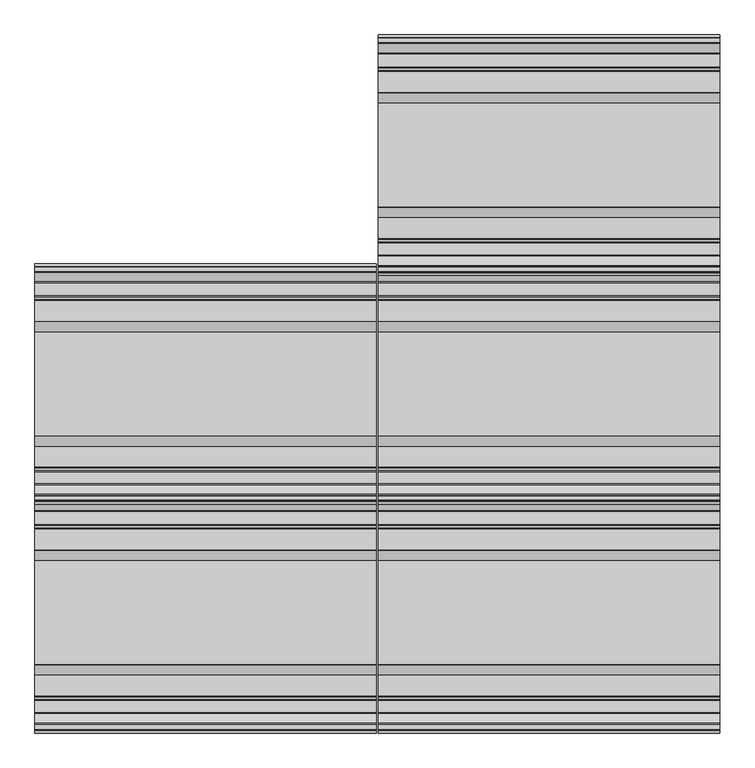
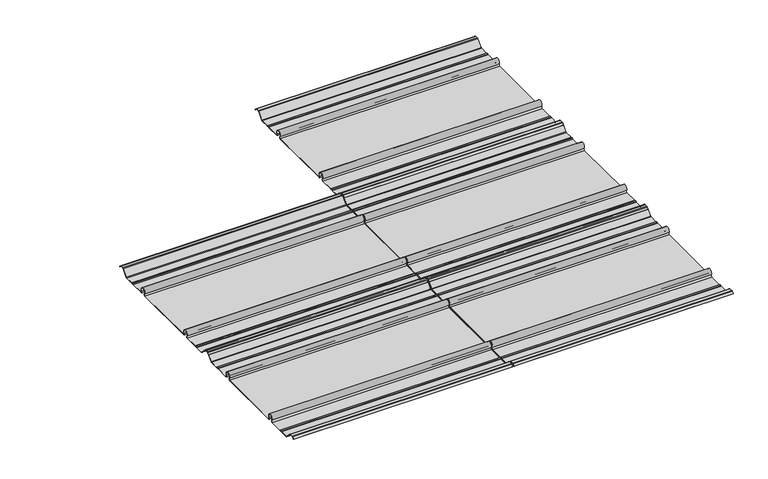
"""IFC4 building model written with IfcOpenShell, lengths in millimetres: proxy geometry, Xlath : Xlath."""

from ifc_helpers import new_model, si_unit, point, frame, frame_2d, origin, place, context, project, spatial, polyline, circle_curve, trimmed, segment, composite_curve, outline, extrude, source, transform, mapped, element, save


def generic_models_d6662897(model_context):
    return source(origin(), model_context, "Body", "SweptSolid", [
        extrude(outline(composite_curve([segment(polyline([(-3661.621536, 17.692427), (-3657.6, 13.8209287), (-3658.1628134, 13.2581153), (-3662.4173305, 17.3539026)]), True, "CONTINUOUS"), segment(trimmed(circle_curve(frame_2d((-3664.2934261, 15.4051)), 2.7051), [point((-3662.4173305, 17.3539026))], [point((-3664.2934261, 18.1102))], True, "CARTESIAN"), True, "CONTINUOUS"), segment(polyline([(-3664.2934261, 18.1102), (-3671.4817457, 18.1102)]), True, "CONTINUOUS"), segment(trimmed(circle_curve(frame_2d((-3671.4817457, 15.4051)), 2.7051), [point((-3671.4817457, 18.1102))], [point((-3673.4059623, 17.3064039))], True, "CARTESIAN"), True, "CONTINUOUS"), segment(polyline([(-3673.4059623, 17.3064039), (-3689.5741011, 0.9434226)]), True, "CONTINUOUS"), segment(trimmed(circle_curve(frame_2d((-3691.8325712, 3.175)), 3.175), [point((-3689.5741011, 0.9434226))], [point((-3691.8325712, 0.0))], False, "CARTESIAN"), True, "CONTINUOUS"), segment(polyline([(-3691.8325712, 0.0), (-3714.9486405, 0.0)]), True, "CONTINUOUS"), segment(trimmed(circle_curve(frame_2d((-3714.9486405, 3.175)), 3.175), [point((-3714.9486405, 0.0))], [point((-3716.9419174, 0.70367))], False, "CARTESIAN"), True, "CONTINUOUS"), segment(trimmed(circle_curve(frame_2d((-3718.9351943, -1.7676601)), 3.175), [point((-3716.9419174, 0.70367))], [point((-3720.9284712, 0.70367))], True, "CARTESIAN"), True, "CONTINUOUS"), segment(trimmed(circle_curve(frame_2d((-3722.9217481, 3.175)), 3.175), [point((-3720.9284712, 0.70367))], [point((-3722.9217481, 0.0))], False, "CARTESIAN"), True, "CONTINUOUS"), segment(polyline([(-3722.9217481, 0.0), (-3760.19972, 0.0)]), True, "CONTINUOUS"), segment(trimmed(circle_curve(frame_2d((-3760.19972, 3.3362305)), 3.3362305), [point((-3760.19972, 0.0))], [point((-3762.8911698, 5.3076593))], False, "CARTESIAN"), True, "CONTINUOUS"), segment(trimmed(circle_curve(frame_2d((-3769.4031627, 10.0775533)), 8.0720469), [point((-3762.8911698, 5.3076593))], [point((-3775.9151555, 5.3076593))], True, "CARTESIAN"), True, "CONTINUOUS"), segment(trimmed(circle_curve(frame_2d((-3778.6066054, 3.3362305)), 3.3362305), [point((-3775.9151555, 5.3076593))], [point((-3778.6066054, 0.0))], False, "CARTESIAN"), True, "CONTINUOUS"), segment(polyline([(-3778.6066054, 0.0), (-3963.6308946, 0.0)]), True, "CONTINUOUS"), segment(trimmed(circle_curve(frame_2d((-3963.6308946, 3.3362305)), 3.3362305), [point((-3963.6308946, 0.0))], [point((-3966.3223445, 5.3076593))], False, "CARTESIAN"), True, "CONTINUOUS"), segment(trimmed(circle_curve(frame_2d((-3972.8343373, 10.0775533)), 8.0720469), [point((-3966.3223445, 5.3076593))], [point((-3979.3463302, 5.3076593))], True, "CARTESIAN"), True, "CONTINUOUS"), segment(trimmed(circle_curve(frame_2d((-3982.03778, 3.3362305)), 3.3362305), [point((-3979.3463302, 5.3076593))], [point((-3982.03778, 0.0))], False, "CARTESIAN"), True, "CONTINUOUS"), segment(polyline([(-3982.03778, 0.0), (-4019.3157519, 0.0)]), True, "CONTINUOUS"), segment(trimmed(circle_curve(frame_2d((-4019.3157519, 3.175)), 3.175), [point((-4019.3157519, 0.0))], [point((-4021.3090288, 0.70367))], False, "CARTESIAN"), True, "CONTINUOUS"), segment(trimmed(circle_curve(frame_2d((-4023.3023057, -1.7676601)), 3.175), [point((-4021.3090288, 0.70367))], [point((-4025.2955826, 0.70367))], True, "CARTESIAN"), True, "CONTINUOUS"), segment(trimmed(circle_curve(frame_2d((-4027.2888595, 3.175)), 3.175), [point((-4025.2955826, 0.70367))], [point((-4027.2888595, 0.0))], False, "CARTESIAN"), True, "CONTINUOUS"), segment(polyline([(-4027.2888595, 0.0), (-4048.6183557, 0.0)]), True, "CONTINUOUS"), segment(trimmed(circle_curve(frame_2d((-4048.6183557, 3.175)), 3.175), [point((-4048.6183557, 0.0))], [point((-4050.8768259, 0.9434226))], False, "CARTESIAN"), True, "CONTINUOUS"), segment(polyline([(-4050.8768259, 0.9434226), (-4067.5092693, 17.7763039)]), True, "CONTINUOUS"), segment(trimmed(circle_curve(frame_2d((-4069.4334859, 15.875)), 2.7051), [point((-4067.5092693, 17.7763039))], [point((-4069.4334859, 18.5801))], True, "CARTESIAN"), True, "CONTINUOUS"), segment(polyline([(-4069.4334859, 18.5801), (-4077.9440739, 18.5801)]), True, "CONTINUOUS"), segment(trimmed(circle_curve(frame_2d((-4077.9440739, 15.875)), 2.7051), [point((-4077.9440739, 18.5801))], [point((-4079.8201695, 17.8238026))], True, "CARTESIAN"), True, "CONTINUOUS"), segment(polyline([(-4079.8201695, 17.8238026), (-4084.0855845, 13.717524), (-4084.6483979, 14.2803374), (-4080.615964, 18.162327)]), True, "CONTINUOUS"), segment(trimmed(circle_curve(frame_2d((-4078.4139739, 15.875)), 3.175), [point((-4080.615964, 18.162327))], [point((-4078.4139739, 19.05))], False, "CARTESIAN"), True, "CONTINUOUS"), segment(polyline([(-4078.4139739, 19.05), (-4069.4334859, 19.05)]), True, "CONTINUOUS"), segment(trimmed(circle_curve(frame_2d((-4069.4334859, 15.875)), 3.175), [point((-4069.4334859, 19.05))], [point((-4067.1750157, 18.1065774))], False, "CARTESIAN"), True, "CONTINUOUS"), segment(polyline([(-4067.1750157, 18.1065774), (-4050.5425723, 1.2736961)]), True, "CONTINUOUS"), segment(trimmed(circle_curve(frame_2d((-4048.6183557, 3.175)), 2.7051), [point((-4050.5425723, 1.2736961))], [point((-4048.6183557, 0.4699))], True, "CARTESIAN"), True, "CONTINUOUS"), segment(polyline([(-4048.6183557, 0.4699), (-4027.4514296, 0.4699)]), True, "CONTINUOUS"), segment(trimmed(circle_curve(frame_2d((-4027.4514296, 3.6449)), 3.175), [point((-4027.4514296, 0.4699))], [point((-4025.5198077, 1.1250862))], True, "CARTESIAN"), True, "CONTINUOUS"), segment(trimmed(circle_curve(frame_2d((-4023.3023057, -1.7676601)), 3.6449), [point((-4025.5198077, 1.1250862))], [point((-4021.0848037, 1.1250862))], False, "CARTESIAN"), True, "CONTINUOUS"), segment(trimmed(circle_curve(frame_2d((-4019.1531818, 3.6449)), 3.175), [point((-4021.0848037, 1.1250862))], [point((-4019.1531818, 0.4699))], True, "CARTESIAN"), True, "CONTINUOUS"), segment(polyline([(-4019.1531818, 0.4699), (-3982.03778, 0.4699)]), True, "CONTINUOUS"), segment(trimmed(circle_curve(frame_2d((-3982.03778, 3.3362305)), 2.8663305), [point((-3982.03778, 0.4699))], [point((-3979.7254144, 5.0299883))], True, "CARTESIAN"), True, "CONTINUOUS"), segment(trimmed(circle_curve(frame_2d((-3972.8343373, 10.0775533)), 8.5419469), [point((-3979.7254144, 5.0299883))], [point((-3965.9432603, 5.0299883))], False, "CARTESIAN"), True, "CONTINUOUS"), segment(trimmed(circle_curve(frame_2d((-3963.6308946, 3.3362305)), 2.8663305), [point((-3965.9432603, 5.0299883))], [point((-3963.6308946, 0.4699))], True, "CARTESIAN"), True, "CONTINUOUS"), segment(polyline([(-3963.6308946, 0.4699), (-3778.6066054, 0.4699)]), True, "CONTINUOUS"), segment(trimmed(circle_curve(frame_2d((-3778.6066054, 3.3362305)), 2.8663305), [point((-3778.6066054, 0.4699))], [point((-3776.2942397, 5.0299883))], True, "CARTESIAN"), True, "CONTINUOUS"), segment(trimmed(circle_curve(frame_2d((-3769.4031627, 10.0775533)), 8.5419469), [point((-3776.2942397, 5.0299883))], [point((-3762.5120856, 5.0299883))], False, "CARTESIAN"), True, "CONTINUOUS"), segment(trimmed(circle_curve(frame_2d((-3760.19972, 3.3362305)), 2.8663305), [point((-3762.5120856, 5.0299883))], [point((-3760.19972, 0.4699))], True, "CARTESIAN"), True, "CONTINUOUS"), segment(polyline([(-3760.19972, 0.4699), (-3723.0843182, 0.4699)]), True, "CONTINUOUS"), segment(trimmed(circle_curve(frame_2d((-3723.0843182, 3.6449)), 3.175), [point((-3723.0843182, 0.4699))], [point((-3721.1526963, 1.1250862))], True, "CARTESIAN"), True, "CONTINUOUS"), segment(trimmed(circle_curve(frame_2d((-3718.9351943, -1.7676601)), 3.6449), [point((-3721.1526963, 1.1250862))], [point((-3716.7176923, 1.1250862))], False, "CARTESIAN"), True, "CONTINUOUS"), segment(trimmed(circle_curve(frame_2d((-3714.7860704, 3.6449)), 3.175), [point((-3716.7176923, 1.1250862))], [point((-3714.7860704, 0.4699))], True, "CARTESIAN"), True, "CONTINUOUS"), segment(polyline([(-3714.7860704, 0.4699), (-3691.8325712, 0.4699)]), True, "CONTINUOUS"), segment(trimmed(circle_curve(frame_2d((-3691.8325712, 3.175)), 2.7051), [point((-3691.8325712, 0.4699))], [point((-3689.9083547, 1.2736961))], True, "CARTESIAN"), True, "CONTINUOUS"), segment(polyline([(-3689.9083547, 1.2736961), (-3673.7402159, 17.6366774)]), True, "CONTINUOUS"), segment(trimmed(circle_curve(frame_2d((-3671.4817457, 15.4051)), 3.175), [point((-3673.7402159, 17.6366774))], [point((-3671.4817457, 18.5801))], False, "CARTESIAN"), True, "CONTINUOUS"), segment(polyline([(-3671.4817457, 18.5801), (-3663.8235261, 18.5801)]), True, "CONTINUOUS"), segment(trimmed(circle_curve(frame_2d((-3663.8235261, 15.4051)), 3.175), [point((-3663.8235261, 18.5801))], [point((-3661.621536, 17.692427))], False, "CARTESIAN"), True, "CONTINUOUS")], self_intersect=False)), frame((609.6, 0.0, 0.0), z_axis=(1.0, 0.0, 0.0), x_axis=(0.0, 1.0, 0.0)), (0.0, 0.0, 1.0), 606.425),
        extrude(outline(composite_curve([segment(polyline([(-3661.621536, 17.692427), (-3657.6, 13.8209287), (-3658.1628134, 13.2581153), (-3662.4173305, 17.3539026)]), True, "CONTINUOUS"), segment(trimmed(circle_curve(frame_2d((-3664.2934261, 15.4051)), 2.7051), [point((-3662.4173305, 17.3539026))], [point((-3664.2934261, 18.1102))], True, "CARTESIAN"), True, "CONTINUOUS"), segment(polyline([(-3664.2934261, 18.1102), (-3671.4817457, 18.1102)]), True, "CONTINUOUS"), segment(trimmed(circle_curve(frame_2d((-3671.4817457, 15.4051)), 2.7051), [point((-3671.4817457, 18.1102))], [point((-3673.4059623, 17.3064039))], True, "CARTESIAN"), True, "CONTINUOUS"), segment(polyline([(-3673.4059623, 17.3064039), (-3689.5741011, 0.9434226)]), True, "CONTINUOUS"), segment(trimmed(circle_curve(frame_2d((-3691.8325712, 3.175)), 3.175), [point((-3689.5741011, 0.9434226))], [point((-3691.8325712, 0.0))], False, "CARTESIAN"), True, "CONTINUOUS"), segment(polyline([(-3691.8325712, 0.0), (-3714.9486405, 0.0)]), True, "CONTINUOUS"), segment(trimmed(circle_curve(frame_2d((-3714.9486405, 3.175)), 3.175), [point((-3714.9486405, 0.0))], [point((-3716.9419174, 0.70367))], False, "CARTESIAN"), True, "CONTINUOUS"), segment(trimmed(circle_curve(frame_2d((-3718.9351943, -1.7676601)), 3.175), [point((-3716.9419174, 0.70367))], [point((-3720.9284712, 0.70367))], True, "CARTESIAN"), True, "CONTINUOUS"), segment(trimmed(circle_curve(frame_2d((-3722.9217481, 3.175)), 3.175), [point((-3720.9284712, 0.70367))], [point((-3722.9217481, 0.0))], False, "CARTESIAN"), True, "CONTINUOUS"), segment(polyline([(-3722.9217481, 0.0), (-3760.19972, 0.0)]), True, "CONTINUOUS"), segment(trimmed(circle_curve(frame_2d((-3760.19972, 3.3362305)), 3.3362305), [point((-3760.19972, 0.0))], [point((-3762.8911698, 5.3076593))], False, "CARTESIAN"), True, "CONTINUOUS"), segment(trimmed(circle_curve(frame_2d((-3769.4031627, 10.0775533)), 8.0720469), [point((-3762.8911698, 5.3076593))], [point((-3775.9151555, 5.3076593))], True, "CARTESIAN"), True, "CONTINUOUS"), segment(trimmed(circle_curve(frame_2d((-3778.6066054, 3.3362305)), 3.3362305), [point((-3775.9151555, 5.3076593))], [point((-3778.6066054, 0.0))], False, "CARTESIAN"), True, "CONTINUOUS"), segment(polyline([(-3778.6066054, 0.0), (-3963.6308946, 0.0)]), True, "CONTINUOUS"), segment(trimmed(circle_curve(frame_2d((-3963.6308946, 3.3362305)), 3.3362305), [point((-3963.6308946, 0.0))], [point((-3966.3223445, 5.3076593))], False, "CARTESIAN"), True, "CONTINUOUS"), segment(trimmed(circle_curve(frame_2d((-3972.8343373, 10.0775533)), 8.0720469), [point((-3966.3223445, 5.3076593))], [point((-3979.3463302, 5.3076593))], True, "CARTESIAN"), True, "CONTINUOUS"), segment(trimmed(circle_curve(frame_2d((-3982.03778, 3.3362305)), 3.3362305), [point((-3979.3463302, 5.3076593))], [point((-3982.03778, 0.0))], False, "CARTESIAN"), True, "CONTINUOUS"), segment(polyline([(-3982.03778, 0.0), (-4019.3157519, 0.0)]), True, "CONTINUOUS"), segment(trimmed(circle_curve(frame_2d((-4019.3157519, 3.175)), 3.175), [point((-4019.3157519, 0.0))], [point((-4021.3090288, 0.70367))], False, "CARTESIAN"), True, "CONTINUOUS"), segment(trimmed(circle_curve(frame_2d((-4023.3023057, -1.7676601)), 3.175), [point((-4021.3090288, 0.70367))], [point((-4025.2955826, 0.70367))], True, "CARTESIAN"), True, "CONTINUOUS"), segment(trimmed(circle_curve(frame_2d((-4027.2888595, 3.175)), 3.175), [point((-4025.2955826, 0.70367))], [point((-4027.2888595, 0.0))], False, "CARTESIAN"), True, "CONTINUOUS"), segment(polyline([(-4027.2888595, 0.0), (-4048.6183557, 0.0)]), True, "CONTINUOUS"), segment(trimmed(circle_curve(frame_2d((-4048.6183557, 3.175)), 3.175), [point((-4048.6183557, 0.0))], [point((-4050.8768259, 0.9434226))], False, "CARTESIAN"), True, "CONTINUOUS"), segment(polyline([(-4050.8768259, 0.9434226), (-4067.5092693, 17.7763039)]), True, "CONTINUOUS"), segment(trimmed(circle_curve(frame_2d((-4069.4334859, 15.875)), 2.7051), [point((-4067.5092693, 17.7763039))], [point((-4069.4334859, 18.5801))], True, "CARTESIAN"), True, "CONTINUOUS"), segment(polyline([(-4069.4334859, 18.5801), (-4077.9440739, 18.5801)]), True, "CONTINUOUS"), segment(trimmed(circle_curve(frame_2d((-4077.9440739, 15.875)), 2.7051), [point((-4077.9440739, 18.5801))], [point((-4079.8201695, 17.8238026))], True, "CARTESIAN"), True, "CONTINUOUS"), segment(polyline([(-4079.8201695, 17.8238026), (-4084.0855845, 13.717524), (-4084.6483979, 14.2803374), (-4080.615964, 18.162327)]), True, "CONTINUOUS"), segment(trimmed(circle_curve(frame_2d((-4078.4139739, 15.875)), 3.175), [point((-4080.615964, 18.162327))], [point((-4078.4139739, 19.05))], False, "CARTESIAN"), True, "CONTINUOUS"), segment(polyline([(-4078.4139739, 19.05), (-4069.4334859, 19.05)]), True, "CONTINUOUS"), segment(trimmed(circle_curve(frame_2d((-4069.4334859, 15.875)), 3.175), [point((-4069.4334859, 19.05))], [point((-4067.1750157, 18.1065774))], False, "CARTESIAN"), True, "CONTINUOUS"), segment(polyline([(-4067.1750157, 18.1065774), (-4050.5425723, 1.2736961)]), True, "CONTINUOUS"), segment(trimmed(circle_curve(frame_2d((-4048.6183557, 3.175)), 2.7051), [point((-4050.5425723, 1.2736961))], [point((-4048.6183557, 0.4699))], True, "CARTESIAN"), True, "CONTINUOUS"), segment(polyline([(-4048.6183557, 0.4699), (-4027.4514296, 0.4699)]), True, "CONTINUOUS"), segment(trimmed(circle_curve(frame_2d((-4027.4514296, 3.6449)), 3.175), [point((-4027.4514296, 0.4699))], [point((-4025.5198077, 1.1250862))], True, "CARTESIAN"), True, "CONTINUOUS"), segment(trimmed(circle_curve(frame_2d((-4023.3023057, -1.7676601)), 3.6449), [point((-4025.5198077, 1.1250862))], [point((-4021.0848037, 1.1250862))], False, "CARTESIAN"), True, "CONTINUOUS"), segment(trimmed(circle_curve(frame_2d((-4019.1531818, 3.6449)), 3.175), [point((-4021.0848037, 1.1250862))], [point((-4019.1531818, 0.4699))], True, "CARTESIAN"), True, "CONTINUOUS"), segment(polyline([(-4019.1531818, 0.4699), (-3982.03778, 0.4699)]), True, "CONTINUOUS"), segment(trimmed(circle_curve(frame_2d((-3982.03778, 3.3362305)), 2.8663305), [point((-3982.03778, 0.4699))], [point((-3979.7254144, 5.0299883))], True, "CARTESIAN"), True, "CONTINUOUS"), segment(trimmed(circle_curve(frame_2d((-3972.8343373, 10.0775533)), 8.5419469), [point((-3979.7254144, 5.0299883))], [point((-3965.9432603, 5.0299883))], False, "CARTESIAN"), True, "CONTINUOUS"), segment(trimmed(circle_curve(frame_2d((-3963.6308946, 3.3362305)), 2.8663305), [point((-3965.9432603, 5.0299883))], [point((-3963.6308946, 0.4699))], True, "CARTESIAN"), True, "CONTINUOUS"), segment(polyline([(-3963.6308946, 0.4699), (-3778.6066054, 0.4699)]), True, "CONTINUOUS"), segment(trimmed(circle_curve(frame_2d((-3778.6066054, 3.3362305)), 2.8663305), [point((-3778.6066054, 0.4699))], [point((-3776.2942397, 5.0299883))], True, "CARTESIAN"), True, "CONTINUOUS"), segment(trimmed(circle_curve(frame_2d((-3769.4031627, 10.0775533)), 8.5419469), [point((-3776.2942397, 5.0299883))], [point((-3762.5120856, 5.0299883))], False, "CARTESIAN"), True, "CONTINUOUS"), segment(trimmed(circle_curve(frame_2d((-3760.19972, 3.3362305)), 2.8663305), [point((-3762.5120856, 5.0299883))], [point((-3760.19972, 0.4699))], True, "CARTESIAN"), True, "CONTINUOUS"), segment(polyline([(-3760.19972, 0.4699), (-3723.0843182, 0.4699)]), True, "CONTINUOUS"), segment(trimmed(circle_curve(frame_2d((-3723.0843182, 3.6449)), 3.175), [point((-3723.0843182, 0.4699))], [point((-3721.1526963, 1.1250862))], True, "CARTESIAN"), True, "CONTINUOUS"), segment(trimmed(circle_curve(frame_2d((-3718.9351943, -1.7676601)), 3.6449), [point((-3721.1526963, 1.1250862))], [point((-3716.7176923, 1.1250862))], False, "CARTESIAN"), True, "CONTINUOUS"), segment(trimmed(circle_curve(frame_2d((-3714.7860704, 3.6449)), 3.175), [point((-3716.7176923, 1.1250862))], [point((-3714.7860704, 0.4699))], True, "CARTESIAN"), True, "CONTINUOUS"), segment(polyline([(-3714.7860704, 0.4699), (-3691.8325712, 0.4699)]), True, "CONTINUOUS"), segment(trimmed(circle_curve(frame_2d((-3691.8325712, 3.175)), 2.7051), [point((-3691.8325712, 0.4699))], [point((-3689.9083547, 1.2736961))], True, "CARTESIAN"), True, "CONTINUOUS"), segment(polyline([(-3689.9083547, 1.2736961), (-3673.7402159, 17.6366774)]), True, "CONTINUOUS"), segment(trimmed(circle_curve(frame_2d((-3671.4817457, 15.4051)), 3.175), [point((-3673.7402159, 17.6366774))], [point((-3671.4817457, 18.5801))], False, "CARTESIAN"), True, "CONTINUOUS"), segment(polyline([(-3671.4817457, 18.5801), (-3663.8235261, 18.5801)]), True, "CONTINUOUS"), segment(trimmed(circle_curve(frame_2d((-3663.8235261, 15.4051)), 3.175), [point((-3663.8235261, 18.5801))], [point((-3661.621536, 17.692427))], False, "CARTESIAN"), True, "CONTINUOUS")], self_intersect=False)), frame((0.0, 0.0, 0.0), z_axis=(1.0, 0.0, 0.0), x_axis=(0.0, 1.0, 0.0)), (0.0, 0.0, 1.0), 606.425),
        extrude(outline(composite_curve([segment(polyline([(-3255.221536, 17.692427), (-3251.2, 13.8209287), (-3251.7628134, 13.2581153), (-3256.0173305, 17.3539026)]), True, "CONTINUOUS"), segment(trimmed(circle_curve(frame_2d((-3257.8934261, 15.4051)), 2.7051), [point((-3256.0173305, 17.3539026))], [point((-3257.8934261, 18.1102))], True, "CARTESIAN"), True, "CONTINUOUS"), segment(polyline([(-3257.8934261, 18.1102), (-3265.0817457, 18.1102)]), True, "CONTINUOUS"), segment(trimmed(circle_curve(frame_2d((-3265.0817457, 15.4051)), 2.7051), [point((-3265.0817457, 18.1102))], [point((-3267.0059623, 17.3064039))], True, "CARTESIAN"), True, "CONTINUOUS"), segment(polyline([(-3267.0059623, 17.3064039), (-3283.1741011, 0.9434226)]), True, "CONTINUOUS"), segment(trimmed(circle_curve(frame_2d((-3285.4325712, 3.175)), 3.175), [point((-3283.1741011, 0.9434226))], [point((-3285.4325712, 0.0))], False, "CARTESIAN"), True, "CONTINUOUS"), segment(polyline([(-3285.4325712, 0.0), (-3308.5486405, 0.0)]), True, "CONTINUOUS"), segment(trimmed(circle_curve(frame_2d((-3308.5486405, 3.175)), 3.175), [point((-3308.5486405, 0.0))], [point((-3310.5419174, 0.70367))], False, "CARTESIAN"), True, "CONTINUOUS"), segment(trimmed(circle_curve(frame_2d((-3312.5351943, -1.7676601)), 3.175), [point((-3310.5419174, 0.70367))], [point((-3314.5284712, 0.70367))], True, "CARTESIAN"), True, "CONTINUOUS"), segment(trimmed(circle_curve(frame_2d((-3316.5217481, 3.175)), 3.175), [point((-3314.5284712, 0.70367))], [point((-3316.5217481, 0.0))], False, "CARTESIAN"), True, "CONTINUOUS"), segment(polyline([(-3316.5217481, 0.0), (-3353.79972, 0.0)]), True, "CONTINUOUS"), segment(trimmed(circle_curve(frame_2d((-3353.79972, 3.3362305)), 3.3362305), [point((-3353.79972, 0.0))], [point((-3356.4911698, 5.3076593))], False, "CARTESIAN"), True, "CONTINUOUS"), segment(trimmed(circle_curve(frame_2d((-3363.0031627, 10.0775533)), 8.0720469), [point((-3356.4911698, 5.3076593))], [point((-3369.5151555, 5.3076593))], True, "CARTESIAN"), True, "CONTINUOUS"), segment(trimmed(circle_curve(frame_2d((-3372.2066054, 3.3362305)), 3.3362305), [point((-3369.5151555, 5.3076593))], [point((-3372.2066054, 0.0))], False, "CARTESIAN"), True, "CONTINUOUS"), segment(polyline([(-3372.2066054, 0.0), (-3557.2308946, 0.0)]), True, "CONTINUOUS"), segment(trimmed(circle_curve(frame_2d((-3557.2308946, 3.3362305)), 3.3362305), [point((-3557.2308946, 0.0))], [point((-3559.9223445, 5.3076593))], False, "CARTESIAN"), True, "CONTINUOUS"), segment(trimmed(circle_curve(frame_2d((-3566.4343373, 10.0775533)), 8.0720469), [point((-3559.9223445, 5.3076593))], [point((-3572.9463302, 5.3076593))], True, "CARTESIAN"), True, "CONTINUOUS"), segment(trimmed(circle_curve(frame_2d((-3575.63778, 3.3362305)), 3.3362305), [point((-3572.9463302, 5.3076593))], [point((-3575.63778, 0.0))], False, "CARTESIAN"), True, "CONTINUOUS"), segment(polyline([(-3575.63778, 0.0), (-3612.9157519, 0.0)]), True, "CONTINUOUS"), segment(trimmed(circle_curve(frame_2d((-3612.9157519, 3.175)), 3.175), [point((-3612.9157519, 0.0))], [point((-3614.9090288, 0.70367))], False, "CARTESIAN"), True, "CONTINUOUS"), segment(trimmed(circle_curve(frame_2d((-3616.9023057, -1.7676601)), 3.175), [point((-3614.9090288, 0.70367))], [point((-3618.8955826, 0.70367))], True, "CARTESIAN"), True, "CONTINUOUS"), segment(trimmed(circle_curve(frame_2d((-3620.8888595, 3.175)), 3.175), [point((-3618.8955826, 0.70367))], [point((-3620.8888595, 0.0))], False, "CARTESIAN"), True, "CONTINUOUS"), segment(polyline([(-3620.8888595, 0.0), (-3642.2183557, 0.0)]), True, "CONTINUOUS"), segment(trimmed(circle_curve(frame_2d((-3642.2183557, 3.175)), 3.175), [point((-3642.2183557, 0.0))], [point((-3644.4768259, 0.9434226))], False, "CARTESIAN"), True, "CONTINUOUS"), segment(polyline([(-3644.4768259, 0.9434226), (-3661.1092693, 17.7763039)]), True, "CONTINUOUS"), segment(trimmed(circle_curve(frame_2d((-3663.0334859, 15.875)), 2.7051), [point((-3661.1092693, 17.7763039))], [point((-3663.0334859, 18.5801))], True, "CARTESIAN"), True, "CONTINUOUS"), segment(polyline([(-3663.0334859, 18.5801), (-3671.5440739, 18.5801)]), True, "CONTINUOUS"), segment(trimmed(circle_curve(frame_2d((-3671.5440739, 15.875)), 2.7051), [point((-3671.5440739, 18.5801))], [point((-3673.4201695, 17.8238026))], True, "CARTESIAN"), True, "CONTINUOUS"), segment(polyline([(-3673.4201695, 17.8238026), (-3677.6855845, 13.717524), (-3678.2483979, 14.2803374), (-3674.215964, 18.162327)]), True, "CONTINUOUS"), segment(trimmed(circle_curve(frame_2d((-3672.0139739, 15.875)), 3.175), [point((-3674.215964, 18.162327))], [point((-3672.0139739, 19.05))], False, "CARTESIAN"), True, "CONTINUOUS"), segment(polyline([(-3672.0139739, 19.05), (-3663.0334859, 19.05)]), True, "CONTINUOUS"), segment(trimmed(circle_curve(frame_2d((-3663.0334859, 15.875)), 3.175), [point((-3663.0334859, 19.05))], [point((-3660.7750157, 18.1065774))], False, "CARTESIAN"), True, "CONTINUOUS"), segment(polyline([(-3660.7750157, 18.1065774), (-3644.1425723, 1.2736961)]), True, "CONTINUOUS"), segment(trimmed(circle_curve(frame_2d((-3642.2183557, 3.175)), 2.7051), [point((-3644.1425723, 1.2736961))], [point((-3642.2183557, 0.4699))], True, "CARTESIAN"), True, "CONTINUOUS"), segment(polyline([(-3642.2183557, 0.4699), (-3621.0514296, 0.4699)]), True, "CONTINUOUS"), segment(trimmed(circle_curve(frame_2d((-3621.0514296, 3.6449)), 3.175), [point((-3621.0514296, 0.4699))], [point((-3619.1198077, 1.1250862))], True, "CARTESIAN"), True, "CONTINUOUS"), segment(trimmed(circle_curve(frame_2d((-3616.9023057, -1.7676601)), 3.6449), [point((-3619.1198077, 1.1250862))], [point((-3614.6848037, 1.1250862))], False, "CARTESIAN"), True, "CONTINUOUS"), segment(trimmed(circle_curve(frame_2d((-3612.7531818, 3.6449)), 3.175), [point((-3614.6848037, 1.1250862))], [point((-3612.7531818, 0.4699))], True, "CARTESIAN"), True, "CONTINUOUS"), segment(polyline([(-3612.7531818, 0.4699), (-3575.63778, 0.4699)]), True, "CONTINUOUS"), segment(trimmed(circle_curve(frame_2d((-3575.63778, 3.3362305)), 2.8663305), [point((-3575.63778, 0.4699))], [point((-3573.3254144, 5.0299883))], True, "CARTESIAN"), True, "CONTINUOUS"), segment(trimmed(circle_curve(frame_2d((-3566.4343373, 10.0775533)), 8.5419469), [point((-3573.3254144, 5.0299883))], [point((-3559.5432603, 5.0299883))], False, "CARTESIAN"), True, "CONTINUOUS"), segment(trimmed(circle_curve(frame_2d((-3557.2308946, 3.3362305)), 2.8663305), [point((-3559.5432603, 5.0299883))], [point((-3557.2308946, 0.4699))], True, "CARTESIAN"), True, "CONTINUOUS"), segment(polyline([(-3557.2308946, 0.4699), (-3372.2066054, 0.4699)]), True, "CONTINUOUS"), segment(trimmed(circle_curve(frame_2d((-3372.2066054, 3.3362305)), 2.8663305), [point((-3372.2066054, 0.4699))], [point((-3369.8942397, 5.0299883))], True, "CARTESIAN"), True, "CONTINUOUS"), segment(trimmed(circle_curve(frame_2d((-3363.0031627, 10.0775533)), 8.5419469), [point((-3369.8942397, 5.0299883))], [point((-3356.1120856, 5.0299883))], False, "CARTESIAN"), True, "CONTINUOUS"), segment(trimmed(circle_curve(frame_2d((-3353.79972, 3.3362305)), 2.8663305), [point((-3356.1120856, 5.0299883))], [point((-3353.79972, 0.4699))], True, "CARTESIAN"), True, "CONTINUOUS"), segment(polyline([(-3353.79972, 0.4699), (-3316.6843182, 0.4699)]), True, "CONTINUOUS"), segment(trimmed(circle_curve(frame_2d((-3316.6843182, 3.6449)), 3.175), [point((-3316.6843182, 0.4699))], [point((-3314.7526963, 1.1250862))], True, "CARTESIAN"), True, "CONTINUOUS"), segment(trimmed(circle_curve(frame_2d((-3312.5351943, -1.7676601)), 3.6449), [point((-3314.7526963, 1.1250862))], [point((-3310.3176923, 1.1250862))], False, "CARTESIAN"), True, "CONTINUOUS"), segment(trimmed(circle_curve(frame_2d((-3308.3860704, 3.6449)), 3.175), [point((-3310.3176923, 1.1250862))], [point((-3308.3860704, 0.4699))], True, "CARTESIAN"), True, "CONTINUOUS"), segment(polyline([(-3308.3860704, 0.4699), (-3285.4325712, 0.4699)]), True, "CONTINUOUS"), segment(trimmed(circle_curve(frame_2d((-3285.4325712, 3.175)), 2.7051), [point((-3285.4325712, 0.4699))], [point((-3283.5083547, 1.2736961))], True, "CARTESIAN"), True, "CONTINUOUS"), segment(polyline([(-3283.5083547, 1.2736961), (-3267.3402159, 17.6366774)]), True, "CONTINUOUS"), segment(trimmed(circle_curve(frame_2d((-3265.0817457, 15.4051)), 3.175), [point((-3267.3402159, 17.6366774))], [point((-3265.0817457, 18.5801))], False, "CARTESIAN"), True, "CONTINUOUS"), segment(polyline([(-3265.0817457, 18.5801), (-3257.4235261, 18.5801)]), True, "CONTINUOUS"), segment(trimmed(circle_curve(frame_2d((-3257.4235261, 15.4051)), 3.175), [point((-3257.4235261, 18.5801))], [point((-3255.221536, 17.692427))], False, "CARTESIAN"), True, "CONTINUOUS")], self_intersect=False)), frame((609.6, 0.0, 0.0), z_axis=(1.0, 0.0, 0.0), x_axis=(0.0, 1.0, 0.0)), (0.0, 0.0, 1.0), 606.425),
        extrude(outline(composite_curve([segment(polyline([(-3255.221536, 17.692427), (-3251.2, 13.8209287), (-3251.7628134, 13.2581153), (-3256.0173305, 17.3539026)]), True, "CONTINUOUS"), segment(trimmed(circle_curve(frame_2d((-3257.8934261, 15.4051)), 2.7051), [point((-3256.0173305, 17.3539026))], [point((-3257.8934261, 18.1102))], True, "CARTESIAN"), True, "CONTINUOUS"), segment(polyline([(-3257.8934261, 18.1102), (-3265.0817457, 18.1102)]), True, "CONTINUOUS"), segment(trimmed(circle_curve(frame_2d((-3265.0817457, 15.4051)), 2.7051), [point((-3265.0817457, 18.1102))], [point((-3267.0059623, 17.3064039))], True, "CARTESIAN"), True, "CONTINUOUS"), segment(polyline([(-3267.0059623, 17.3064039), (-3283.1741011, 0.9434226)]), True, "CONTINUOUS"), segment(trimmed(circle_curve(frame_2d((-3285.4325712, 3.175)), 3.175), [point((-3283.1741011, 0.9434226))], [point((-3285.4325712, 0.0))], False, "CARTESIAN"), True, "CONTINUOUS"), segment(polyline([(-3285.4325712, 0.0), (-3308.5486405, 0.0)]), True, "CONTINUOUS"), segment(trimmed(circle_curve(frame_2d((-3308.5486405, 3.175)), 3.175), [point((-3308.5486405, 0.0))], [point((-3310.5419174, 0.70367))], False, "CARTESIAN"), True, "CONTINUOUS"), segment(trimmed(circle_curve(frame_2d((-3312.5351943, -1.7676601)), 3.175), [point((-3310.5419174, 0.70367))], [point((-3314.5284712, 0.70367))], True, "CARTESIAN"), True, "CONTINUOUS"), segment(trimmed(circle_curve(frame_2d((-3316.5217481, 3.175)), 3.175), [point((-3314.5284712, 0.70367))], [point((-3316.5217481, 0.0))], False, "CARTESIAN"), True, "CONTINUOUS"), segment(polyline([(-3316.5217481, 0.0), (-3353.79972, 0.0)]), True, "CONTINUOUS"), segment(trimmed(circle_curve(frame_2d((-3353.79972, 3.3362305)), 3.3362305), [point((-3353.79972, 0.0))], [point((-3356.4911698, 5.3076593))], False, "CARTESIAN"), True, "CONTINUOUS"), segment(trimmed(circle_curve(frame_2d((-3363.0031627, 10.0775533)), 8.0720469), [point((-3356.4911698, 5.3076593))], [point((-3369.5151555, 5.3076593))], True, "CARTESIAN"), True, "CONTINUOUS"), segment(trimmed(circle_curve(frame_2d((-3372.2066054, 3.3362305)), 3.3362305), [point((-3369.5151555, 5.3076593))], [point((-3372.2066054, 0.0))], False, "CARTESIAN"), True, "CONTINUOUS"), segment(polyline([(-3372.2066054, 0.0), (-3557.2308946, 0.0)]), True, "CONTINUOUS"), segment(trimmed(circle_curve(frame_2d((-3557.2308946, 3.3362305)), 3.3362305), [point((-3557.2308946, 0.0))], [point((-3559.9223445, 5.3076593))], False, "CARTESIAN"), True, "CONTINUOUS"), segment(trimmed(circle_curve(frame_2d((-3566.4343373, 10.0775533)), 8.0720469), [point((-3559.9223445, 5.3076593))], [point((-3572.9463302, 5.3076593))], True, "CARTESIAN"), True, "CONTINUOUS"), segment(trimmed(circle_curve(frame_2d((-3575.63778, 3.3362305)), 3.3362305), [point((-3572.9463302, 5.3076593))], [point((-3575.63778, 0.0))], False, "CARTESIAN"), True, "CONTINUOUS"), segment(polyline([(-3575.63778, 0.0), (-3612.9157519, 0.0)]), True, "CONTINUOUS"), segment(trimmed(circle_curve(frame_2d((-3612.9157519, 3.175)), 3.175), [point((-3612.9157519, 0.0))], [point((-3614.9090288, 0.70367))], False, "CARTESIAN"), True, "CONTINUOUS"), segment(trimmed(circle_curve(frame_2d((-3616.9023057, -1.7676601)), 3.175), [point((-3614.9090288, 0.70367))], [point((-3618.8955826, 0.70367))], True, "CARTESIAN"), True, "CONTINUOUS"), segment(trimmed(circle_curve(frame_2d((-3620.8888595, 3.175)), 3.175), [point((-3618.8955826, 0.70367))], [point((-3620.8888595, 0.0))], False, "CARTESIAN"), True, "CONTINUOUS"), segment(polyline([(-3620.8888595, 0.0), (-3642.2183557, 0.0)]), True, "CONTINUOUS"), segment(trimmed(circle_curve(frame_2d((-3642.2183557, 3.175)), 3.175), [point((-3642.2183557, 0.0))], [point((-3644.4768259, 0.9434226))], False, "CARTESIAN"), True, "CONTINUOUS"), segment(polyline([(-3644.4768259, 0.9434226), (-3661.1092693, 17.7763039)]), True, "CONTINUOUS"), segment(trimmed(circle_curve(frame_2d((-3663.0334859, 15.875)), 2.7051), [point((-3661.1092693, 17.7763039))], [point((-3663.0334859, 18.5801))], True, "CARTESIAN"), True, "CONTINUOUS"), segment(polyline([(-3663.0334859, 18.5801), (-3671.5440739, 18.5801)]), True, "CONTINUOUS"), segment(trimmed(circle_curve(frame_2d((-3671.5440739, 15.875)), 2.7051), [point((-3671.5440739, 18.5801))], [point((-3673.4201695, 17.8238026))], True, "CARTESIAN"), True, "CONTINUOUS"), segment(polyline([(-3673.4201695, 17.8238026), (-3677.6855845, 13.717524), (-3678.2483979, 14.2803374), (-3674.215964, 18.162327)]), True, "CONTINUOUS"), segment(trimmed(circle_curve(frame_2d((-3672.0139739, 15.875)), 3.175), [point((-3674.215964, 18.162327))], [point((-3672.0139739, 19.05))], False, "CARTESIAN"), True, "CONTINUOUS"), segment(polyline([(-3672.0139739, 19.05), (-3663.0334859, 19.05)]), True, "CONTINUOUS"), segment(trimmed(circle_curve(frame_2d((-3663.0334859, 15.875)), 3.175), [point((-3663.0334859, 19.05))], [point((-3660.7750157, 18.1065774))], False, "CARTESIAN"), True, "CONTINUOUS"), segment(polyline([(-3660.7750157, 18.1065774), (-3644.1425723, 1.2736961)]), True, "CONTINUOUS"), segment(trimmed(circle_curve(frame_2d((-3642.2183557, 3.175)), 2.7051), [point((-3644.1425723, 1.2736961))], [point((-3642.2183557, 0.4699))], True, "CARTESIAN"), True, "CONTINUOUS"), segment(polyline([(-3642.2183557, 0.4699), (-3621.0514296, 0.4699)]), True, "CONTINUOUS"), segment(trimmed(circle_curve(frame_2d((-3621.0514296, 3.6449)), 3.175), [point((-3621.0514296, 0.4699))], [point((-3619.1198077, 1.1250862))], True, "CARTESIAN"), True, "CONTINUOUS"), segment(trimmed(circle_curve(frame_2d((-3616.9023057, -1.7676601)), 3.6449), [point((-3619.1198077, 1.1250862))], [point((-3614.6848037, 1.1250862))], False, "CARTESIAN"), True, "CONTINUOUS"), segment(trimmed(circle_curve(frame_2d((-3612.7531818, 3.6449)), 3.175), [point((-3614.6848037, 1.1250862))], [point((-3612.7531818, 0.4699))], True, "CARTESIAN"), True, "CONTINUOUS"), segment(polyline([(-3612.7531818, 0.4699), (-3575.63778, 0.4699)]), True, "CONTINUOUS"), segment(trimmed(circle_curve(frame_2d((-3575.63778, 3.3362305)), 2.8663305), [point((-3575.63778, 0.4699))], [point((-3573.3254144, 5.0299883))], True, "CARTESIAN"), True, "CONTINUOUS"), segment(trimmed(circle_curve(frame_2d((-3566.4343373, 10.0775533)), 8.5419469), [point((-3573.3254144, 5.0299883))], [point((-3559.5432603, 5.0299883))], False, "CARTESIAN"), True, "CONTINUOUS"), segment(trimmed(circle_curve(frame_2d((-3557.2308946, 3.3362305)), 2.8663305), [point((-3559.5432603, 5.0299883))], [point((-3557.2308946, 0.4699))], True, "CARTESIAN"), True, "CONTINUOUS"), segment(polyline([(-3557.2308946, 0.4699), (-3372.2066054, 0.4699)]), True, "CONTINUOUS"), segment(trimmed(circle_curve(frame_2d((-3372.2066054, 3.3362305)), 2.8663305), [point((-3372.2066054, 0.4699))], [point((-3369.8942397, 5.0299883))], True, "CARTESIAN"), True, "CONTINUOUS"), segment(trimmed(circle_curve(frame_2d((-3363.0031627, 10.0775533)), 8.5419469), [point((-3369.8942397, 5.0299883))], [point((-3356.1120856, 5.0299883))], False, "CARTESIAN"), True, "CONTINUOUS"), segment(trimmed(circle_curve(frame_2d((-3353.79972, 3.3362305)), 2.8663305), [point((-3356.1120856, 5.0299883))], [point((-3353.79972, 0.4699))], True, "CARTESIAN"), True, "CONTINUOUS"), segment(polyline([(-3353.79972, 0.4699), (-3316.6843182, 0.4699)]), True, "CONTINUOUS"), segment(trimmed(circle_curve(frame_2d((-3316.6843182, 3.6449)), 3.175), [point((-3316.6843182, 0.4699))], [point((-3314.7526963, 1.1250862))], True, "CARTESIAN"), True, "CONTINUOUS"), segment(trimmed(circle_curve(frame_2d((-3312.5351943, -1.7676601)), 3.6449), [point((-3314.7526963, 1.1250862))], [point((-3310.3176923, 1.1250862))], False, "CARTESIAN"), True, "CONTINUOUS"), segment(trimmed(circle_curve(frame_2d((-3308.3860704, 3.6449)), 3.175), [point((-3310.3176923, 1.1250862))], [point((-3308.3860704, 0.4699))], True, "CARTESIAN"), True, "CONTINUOUS"), segment(polyline([(-3308.3860704, 0.4699), (-3285.4325712, 0.4699)]), True, "CONTINUOUS"), segment(trimmed(circle_curve(frame_2d((-3285.4325712, 3.175)), 2.7051), [point((-3285.4325712, 0.4699))], [point((-3283.5083547, 1.2736961))], True, "CARTESIAN"), True, "CONTINUOUS"), segment(polyline([(-3283.5083547, 1.2736961), (-3267.3402159, 17.6366774)]), True, "CONTINUOUS"), segment(trimmed(circle_curve(frame_2d((-3265.0817457, 15.4051)), 3.175), [point((-3267.3402159, 17.6366774))], [point((-3265.0817457, 18.5801))], False, "CARTESIAN"), True, "CONTINUOUS"), segment(polyline([(-3265.0817457, 18.5801), (-3257.4235261, 18.5801)]), True, "CONTINUOUS"), segment(trimmed(circle_curve(frame_2d((-3257.4235261, 15.4051)), 3.175), [point((-3257.4235261, 18.5801))], [point((-3255.221536, 17.692427))], False, "CARTESIAN"), True, "CONTINUOUS")], self_intersect=False)), frame((0.0, 0.0, 0.0), z_axis=(1.0, 0.0, 0.0), x_axis=(0.0, 1.0, 0.0)), (0.0, 0.0, 1.0), 606.425),
        extrude(outline(composite_curve([segment(polyline([(-2848.821536, 17.692427), (-2844.8, 13.8209287), (-2845.3628134, 13.2581153), (-2849.6173305, 17.3539026)]), True, "CONTINUOUS"), segment(trimmed(circle_curve(frame_2d((-2851.4934261, 15.4051)), 2.7051), [point((-2849.6173305, 17.3539026))], [point((-2851.4934261, 18.1102))], True, "CARTESIAN"), True, "CONTINUOUS"), segment(polyline([(-2851.4934261, 18.1102), (-2858.6817457, 18.1102)]), True, "CONTINUOUS"), segment(trimmed(circle_curve(frame_2d((-2858.6817457, 15.4051)), 2.7051), [point((-2858.6817457, 18.1102))], [point((-2860.6059623, 17.3064039))], True, "CARTESIAN"), True, "CONTINUOUS"), segment(polyline([(-2860.6059623, 17.3064039), (-2876.7741011, 0.9434226)]), True, "CONTINUOUS"), segment(trimmed(circle_curve(frame_2d((-2879.0325712, 3.175)), 3.175), [point((-2876.7741011, 0.9434226))], [point((-2879.0325712, 0.0))], False, "CARTESIAN"), True, "CONTINUOUS"), segment(polyline([(-2879.0325712, 0.0), (-2902.1486405, 0.0)]), True, "CONTINUOUS"), segment(trimmed(circle_curve(frame_2d((-2902.1486405, 3.175)), 3.175), [point((-2902.1486405, 0.0))], [point((-2904.1419174, 0.70367))], False, "CARTESIAN"), True, "CONTINUOUS"), segment(trimmed(circle_curve(frame_2d((-2906.1351943, -1.7676601)), 3.175), [point((-2904.1419174, 0.70367))], [point((-2908.1284712, 0.70367))], True, "CARTESIAN"), True, "CONTINUOUS"), segment(trimmed(circle_curve(frame_2d((-2910.1217481, 3.175)), 3.175), [point((-2908.1284712, 0.70367))], [point((-2910.1217481, 0.0))], False, "CARTESIAN"), True, "CONTINUOUS"), segment(polyline([(-2910.1217481, 0.0), (-2947.39972, 0.0)]), True, "CONTINUOUS"), segment(trimmed(circle_curve(frame_2d((-2947.39972, 3.3362305)), 3.3362305), [point((-2947.39972, 0.0))], [point((-2950.0911698, 5.3076593))], False, "CARTESIAN"), True, "CONTINUOUS"), segment(trimmed(circle_curve(frame_2d((-2956.6031627, 10.0775533)), 8.0720469), [point((-2950.0911698, 5.3076593))], [point((-2963.1151555, 5.3076593))], True, "CARTESIAN"), True, "CONTINUOUS"), segment(trimmed(circle_curve(frame_2d((-2965.8066054, 3.3362305)), 3.3362305), [point((-2963.1151555, 5.3076593))], [point((-2965.8066054, 0.0))], False, "CARTESIAN"), True, "CONTINUOUS"), segment(polyline([(-2965.8066054, 0.0), (-3150.8308946, 0.0)]), True, "CONTINUOUS"), segment(trimmed(circle_curve(frame_2d((-3150.8308946, 3.3362305)), 3.3362305), [point((-3150.8308946, 0.0))], [point((-3153.5223445, 5.3076593))], False, "CARTESIAN"), True, "CONTINUOUS"), segment(trimmed(circle_curve(frame_2d((-3160.0343373, 10.0775533)), 8.0720469), [point((-3153.5223445, 5.3076593))], [point((-3166.5463302, 5.3076593))], True, "CARTESIAN"), True, "CONTINUOUS"), segment(trimmed(circle_curve(frame_2d((-3169.23778, 3.3362305)), 3.3362305), [point((-3166.5463302, 5.3076593))], [point((-3169.23778, 0.0))], False, "CARTESIAN"), True, "CONTINUOUS"), segment(polyline([(-3169.23778, 0.0), (-3206.5157519, 0.0)]), True, "CONTINUOUS"), segment(trimmed(circle_curve(frame_2d((-3206.5157519, 3.175)), 3.175), [point((-3206.5157519, 0.0))], [point((-3208.5090288, 0.70367))], False, "CARTESIAN"), True, "CONTINUOUS"), segment(trimmed(circle_curve(frame_2d((-3210.5023057, -1.7676601)), 3.175), [point((-3208.5090288, 0.70367))], [point((-3212.4955826, 0.70367))], True, "CARTESIAN"), True, "CONTINUOUS"), segment(trimmed(circle_curve(frame_2d((-3214.4888595, 3.175)), 3.175), [point((-3212.4955826, 0.70367))], [point((-3214.4888595, 0.0))], False, "CARTESIAN"), True, "CONTINUOUS"), segment(polyline([(-3214.4888595, 0.0), (-3235.8183557, 0.0)]), True, "CONTINUOUS"), segment(trimmed(circle_curve(frame_2d((-3235.8183557, 3.175)), 3.175), [point((-3235.8183557, 0.0))], [point((-3238.0768259, 0.9434226))], False, "CARTESIAN"), True, "CONTINUOUS"), segment(polyline([(-3238.0768259, 0.9434226), (-3254.7092693, 17.7763039)]), True, "CONTINUOUS"), segment(trimmed(circle_curve(frame_2d((-3256.6334859, 15.875)), 2.7051), [point((-3254.7092693, 17.7763039))], [point((-3256.6334859, 18.5801))], True, "CARTESIAN"), True, "CONTINUOUS"), segment(polyline([(-3256.6334859, 18.5801), (-3265.1440739, 18.5801)]), True, "CONTINUOUS"), segment(trimmed(circle_curve(frame_2d((-3265.1440739, 15.875)), 2.7051), [point((-3265.1440739, 18.5801))], [point((-3267.0201695, 17.8238026))], True, "CARTESIAN"), True, "CONTINUOUS"), segment(polyline([(-3267.0201695, 17.8238026), (-3271.2855845, 13.717524), (-3271.8483979, 14.2803374), (-3267.815964, 18.162327)]), True, "CONTINUOUS"), segment(trimmed(circle_curve(frame_2d((-3265.6139739, 15.875)), 3.175), [point((-3267.815964, 18.162327))], [point((-3265.6139739, 19.05))], False, "CARTESIAN"), True, "CONTINUOUS"), segment(polyline([(-3265.6139739, 19.05), (-3256.6334859, 19.05)]), True, "CONTINUOUS"), segment(trimmed(circle_curve(frame_2d((-3256.6334859, 15.875)), 3.175), [point((-3256.6334859, 19.05))], [point((-3254.3750157, 18.1065774))], False, "CARTESIAN"), True, "CONTINUOUS"), segment(polyline([(-3254.3750157, 18.1065774), (-3237.7425723, 1.2736961)]), True, "CONTINUOUS"), segment(trimmed(circle_curve(frame_2d((-3235.8183557, 3.175)), 2.7051), [point((-3237.7425723, 1.2736961))], [point((-3235.8183557, 0.4699))], True, "CARTESIAN"), True, "CONTINUOUS"), segment(polyline([(-3235.8183557, 0.4699), (-3214.6514296, 0.4699)]), True, "CONTINUOUS"), segment(trimmed(circle_curve(frame_2d((-3214.6514296, 3.6449)), 3.175), [point((-3214.6514296, 0.4699))], [point((-3212.7198077, 1.1250862))], True, "CARTESIAN"), True, "CONTINUOUS"), segment(trimmed(circle_curve(frame_2d((-3210.5023057, -1.7676601)), 3.6449), [point((-3212.7198077, 1.1250862))], [point((-3208.2848037, 1.1250862))], False, "CARTESIAN"), True, "CONTINUOUS"), segment(trimmed(circle_curve(frame_2d((-3206.3531818, 3.6449)), 3.175), [point((-3208.2848037, 1.1250862))], [point((-3206.3531818, 0.4699))], True, "CARTESIAN"), True, "CONTINUOUS"), segment(polyline([(-3206.3531818, 0.4699), (-3169.23778, 0.4699)]), True, "CONTINUOUS"), segment(trimmed(circle_curve(frame_2d((-3169.23778, 3.3362305)), 2.8663305), [point((-3169.23778, 0.4699))], [point((-3166.9254144, 5.0299883))], True, "CARTESIAN"), True, "CONTINUOUS"), segment(trimmed(circle_curve(frame_2d((-3160.0343373, 10.0775533)), 8.5419469), [point((-3166.9254144, 5.0299883))], [point((-3153.1432603, 5.0299883))], False, "CARTESIAN"), True, "CONTINUOUS"), segment(trimmed(circle_curve(frame_2d((-3150.8308946, 3.3362305)), 2.8663305), [point((-3153.1432603, 5.0299883))], [point((-3150.8308946, 0.4699))], True, "CARTESIAN"), True, "CONTINUOUS"), segment(polyline([(-3150.8308946, 0.4699), (-2965.8066054, 0.4699)]), True, "CONTINUOUS"), segment(trimmed(circle_curve(frame_2d((-2965.8066054, 3.3362305)), 2.8663305), [point((-2965.8066054, 0.4699))], [point((-2963.4942397, 5.0299883))], True, "CARTESIAN"), True, "CONTINUOUS"), segment(trimmed(circle_curve(frame_2d((-2956.6031627, 10.0775533)), 8.5419469), [point((-2963.4942397, 5.0299883))], [point((-2949.7120856, 5.0299883))], False, "CARTESIAN"), True, "CONTINUOUS"), segment(trimmed(circle_curve(frame_2d((-2947.39972, 3.3362305)), 2.8663305), [point((-2949.7120856, 5.0299883))], [point((-2947.39972, 0.4699))], True, "CARTESIAN"), True, "CONTINUOUS"), segment(polyline([(-2947.39972, 0.4699), (-2910.2843182, 0.4699)]), True, "CONTINUOUS"), segment(trimmed(circle_curve(frame_2d((-2910.2843182, 3.6449)), 3.175), [point((-2910.2843182, 0.4699))], [point((-2908.3526963, 1.1250862))], True, "CARTESIAN"), True, "CONTINUOUS"), segment(trimmed(circle_curve(frame_2d((-2906.1351943, -1.7676601)), 3.6449), [point((-2908.3526963, 1.1250862))], [point((-2903.9176923, 1.1250862))], False, "CARTESIAN"), True, "CONTINUOUS"), segment(trimmed(circle_curve(frame_2d((-2901.9860704, 3.6449)), 3.175), [point((-2903.9176923, 1.1250862))], [point((-2901.9860704, 0.4699))], True, "CARTESIAN"), True, "CONTINUOUS"), segment(polyline([(-2901.9860704, 0.4699), (-2879.0325712, 0.4699)]), True, "CONTINUOUS"), segment(trimmed(circle_curve(frame_2d((-2879.0325712, 3.175)), 2.7051), [point((-2879.0325712, 0.4699))], [point((-2877.1083547, 1.2736961))], True, "CARTESIAN"), True, "CONTINUOUS"), segment(polyline([(-2877.1083547, 1.2736961), (-2860.9402159, 17.6366774)]), True, "CONTINUOUS"), segment(trimmed(circle_curve(frame_2d((-2858.6817457, 15.4051)), 3.175), [point((-2860.9402159, 17.6366774))], [point((-2858.6817457, 18.5801))], False, "CARTESIAN"), True, "CONTINUOUS"), segment(polyline([(-2858.6817457, 18.5801), (-2851.0235261, 18.5801)]), True, "CONTINUOUS"), segment(trimmed(circle_curve(frame_2d((-2851.0235261, 15.4051)), 3.175), [point((-2851.0235261, 18.5801))], [point((-2848.821536, 17.692427))], False, "CARTESIAN"), True, "CONTINUOUS")], self_intersect=False)), frame((609.6, 0.0, 0.0), z_axis=(1.0, 0.0, 0.0), x_axis=(0.0, 1.0, 0.0)), (0.0, 0.0, 1.0), 606.425),
    ])


if __name__ == "__main__":
    model = new_model("IFC4")
    model_context = context("Model", 3, world=origin())
    ifc_project = project(units=[si_unit("LENGTHUNIT", "METRE", prefix="MILLI")], contexts=[model_context])
    site = spatial("IfcSite", under=ifc_project)
    building = spatial("IfcBuilding", under=site)
    placement = place(None, origin())
    generic_models_shape = generic_models_d6662897(model_context)
    element("IfcBuildingElementProxy", 1, Name="Xlath : Xlath", ObjectType="Xlath : Xlath", at=placement, inside=building, context=model_context, shape_type="MappedRepresentation", body=[
        mapped(generic_models_shape, transform((0.0, 0.0, 0.0), x_axis=(1.0, 0.0, 0.0), y_axis=(0.0, 1.0, 0.0), z_axis=(0.0, 0.0, 1.0))),
    ])
    save(model, "model.ifc")
